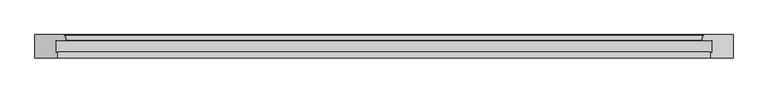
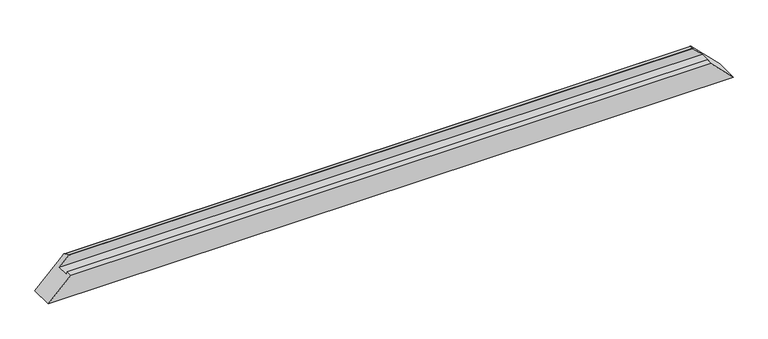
"""IFC4 building model written with IfcOpenShell, lengths in millimetres: proxy geometry, Weiku - Montante - Caixilho 02.2.01.005 : Weiku - Montante - Caixilho 02.2.01.005."""

import ifcopenshell
import ifcopenshell.guid

model = None  # the IFC model being written
_history = None  # IfcOwnerHistory: only IFC2X3 demands one
_inside = {}  # id of a spatial element -> (the spatial element, [elements in it])
_under = {}  # id of a project, library or spatial element -> (it, [spatial elements below it])
_declared = {}  # id of a project -> (the project, [libraries it declares])
_typed = {}  # id of a type object -> (the type object, [elements of that type])
_made_of = {}  # id of a material, layer set ... -> (it, [elements and type objects made of it])


def new_model(schema):
    """Start an empty IFC model of exactly this schema.

    Asked for "IFC4X3", IfcOpenShell would pick the latest addendum, in which some entities
    have other attributes; the version numbers below select the first issue.
    IFC2X3 requires an IfcOwnerHistory on every rooted entity: one is made here for all.
    """
    global model, _history
    if schema == "IFC4X3":
        model = ifcopenshell.file(schema_version=(4, 3, 0, 0))
    else:
        model = ifcopenshell.file(schema=schema)
    _inside.clear()
    _under.clear()
    _declared.clear()
    _typed.clear()
    _made_of.clear()
    _history = None
    if model.schema == "IFC2X3":
        org = make("IfcOrganization", Name="unknown")
        user = make(
            "IfcPersonAndOrganization",
            ThePerson=make("IfcPerson", FamilyName="unknown"),
            TheOrganization=org,
        )
        app = make(
            "IfcApplication",
            ApplicationDeveloper=org,
            Version="unknown",
            ApplicationFullName="unknown",
            ApplicationIdentifier="unknown",
        )
        _history = make(
            "IfcOwnerHistory",
            OwningUser=user,
            OwningApplication=app,
            ChangeAction="ADDED",
            CreationDate=0,
        )
    return model


def make(cls, **values):
    """One entity of the class cls with the attributes given. An attribute that is None is left unset."""
    return model.create_entity(
        cls, **{name: value for name, value in values.items() if value is not None}
    )


def rooted(cls, **values):
    """An entity with a GlobalId (a new one), such as an element, a storey or a relation."""
    return make(cls, GlobalId=ifcopenshell.guid.new(), OwnerHistory=_history, **values)


def si_unit(unit_type, name, prefix=None):
    """IfcSIUnit, for example si_unit("LENGTHUNIT", "METRE", prefix="MILLI")."""
    return make("IfcSIUnit", UnitType=unit_type, Prefix=prefix, Name=name)


def assignment(units):
    """IfcUnitAssignment: the units of a project."""
    return None if units is None else make("IfcUnitAssignment", Units=units)


def point(xyz):
    """IfcCartesianPoint."""
    return None if xyz is None else make("IfcCartesianPoint", Coordinates=xyz)


def direction(xyz):
    """IfcDirection."""
    return None if xyz is None else make("IfcDirection", DirectionRatios=xyz)


def frame(location, z_axis=None, x_axis=None):
    """IfcAxis2Placement3D, a coordinate frame: its origin and axes. An axis left out is left unset."""
    return make(
        "IfcAxis2Placement3D",
        Location=point(location),
        Axis=direction(z_axis),
        RefDirection=direction(x_axis),
    )


def origin():
    """The frame at (0, 0, 0) with its axes left unset."""
    return frame((0.0, 0.0, 0.0))


def place(relative_to, where):
    """IfcLocalPlacement: puts the frame where relative to a parent placement (None: the world)."""
    return make(
        "IfcLocalPlacement", PlacementRelTo=relative_to, RelativePlacement=where
    )


def context(
    kind, dimensions, precision=None, world=None, true_north=None, identifier=None
):
    """IfcGeometricRepresentationContext, for example the 3D "Model" context."""
    return make(
        "IfcGeometricRepresentationContext",
        ContextIdentifier=identifier,
        ContextType=kind,
        CoordinateSpaceDimension=dimensions,
        Precision=precision,
        WorldCoordinateSystem=world,
        TrueNorth=true_north,
    )


def project(units=None, contexts=None):
    """IfcProject with its units and contexts."""
    return rooted(
        "IfcProject",
        Name="project",
        RepresentationContexts=contexts,
        UnitsInContext=assignment(units),
    )


def spatial(cls, under=None, at=None, **own):
    """A site, building, storey or space (cls), placed at a placement, below another one or the project."""
    s = rooted(cls, ObjectPlacement=at, **own)
    if under is not None:
        _under.setdefault(under.id(), (under, []))[1].append(s)
    return s


def ellipse_curve(where, semi_axis1, semi_axis2):
    """IfcEllipse in the frame where."""
    return make(
        "IfcEllipse", Position=where, SemiAxis1=semi_axis1, SemiAxis2=semi_axis2
    )


def shape(context_of_items, identifier, shape_type, items):
    """IfcShapeRepresentation: the items that make up one representation, for example the "Body"."""
    return make(
        "IfcShapeRepresentation",
        ContextOfItems=context_of_items,
        RepresentationIdentifier=identifier,
        RepresentationType=shape_type,
        Items=items,
    )


def source(mapping_origin, context_of_items, identifier, shape_type, items):
    """IfcRepresentationMap: a shape defined once, which mapped items show again and again."""
    return make(
        "IfcRepresentationMap",
        MappingOrigin=mapping_origin,
        MappedRepresentation=shape(context_of_items, identifier, shape_type, items),
    )


def transform(
    local_origin,
    x_axis=None,
    y_axis=None,
    z_axis=None,
    scale=None,
    scale2=None,
    scale3=None,
    uniform=True,
):
    """IfcCartesianTransformationOperator3D, or its non-uniform kind. x_axis, y_axis, z_axis: its Axis1, 2, 3."""
    if uniform:
        return make(
            "IfcCartesianTransformationOperator3D",
            Axis1=direction(x_axis),
            Axis2=direction(y_axis),
            LocalOrigin=point(local_origin),
            Scale=scale,
            Axis3=direction(z_axis),
        )
    return make(
        "IfcCartesianTransformationOperator3DnonUniform",
        Axis1=direction(x_axis),
        Axis2=direction(y_axis),
        LocalOrigin=point(local_origin),
        Scale=scale,
        Axis3=direction(z_axis),
        Scale2=scale2,
        Scale3=scale3,
    )


def mapped(mapping_source, mapping_target):
    """IfcMappedItem: shows the shape of a source again, moved by a transform."""
    return make(
        "IfcMappedItem", MappingSource=mapping_source, MappingTarget=mapping_target
    )


def made_of(thing, what):
    """Note that an element or type object is made of a material, layer set ...; save() writes the relation."""
    if what is not None:
        _made_of.setdefault(what.id(), (what, []))[1].append(thing)
    return thing


def element(
    cls,
    number,
    at=None,
    inside=None,
    cuts=None,
    type_object=None,
    material=None,
    context=None,
    identifier="Body",
    shape_type=None,
    held_by="IfcProductDefinitionShape",
    body=None,
    shapes=None,
    **own,
):
    """One element of the class cls, such as IfcWall. Its Tag is "e" and its number.

    at: its placement. inside: the storey or other place that contains it. cuts: it is an
    opening in that element (IfcRelVoidsElement). A single representation is given by context,
    identifier, shape_type and body (its items); several are given by shapes. held_by: the class
    of the entity that holds the representations. save() writes the other relations.
    """
    e = rooted(cls, Tag="e%d" % number, ObjectPlacement=at, **own)
    if body is not None:
        shapes = [shape(context, identifier, shape_type, body)]
    if shapes is not None:
        e.Representation = make(held_by, Representations=shapes)
    if inside is not None:
        _inside.setdefault(inside.id(), (inside, []))[1].append(e)
    if cuts is not None:
        rooted(
            "IfcRelVoidsElement", RelatingBuildingElement=cuts, RelatedOpeningElement=e
        )
    if type_object is not None:
        _typed.setdefault(type_object.id(), (type_object, []))[1].append(e)
    return made_of(e, material)


def aggregate(whole, parts):
    """IfcRelAggregates: a whole, such as a stair, and the parts it consists of."""
    return rooted("IfcRelAggregates", RelatingObject=whole, RelatedObjects=parts)


def save(model, path):
    """Write the relations noted so far, then the file.

    IfcRelAggregates (storeys below a building ...), IfcRelContainedInSpatialStructure (elements
    in a storey), IfcRelDefinesByType, IfcRelAssociatesMaterial and IfcRelDeclares: one each for
    every whole, place, type object, material and project.
    """
    for whole, parts in _under.values():
        aggregate(whole, parts)
    for where, things in _inside.values():
        rooted(
            "IfcRelContainedInSpatialStructure",
            RelatedElements=things,
            RelatingStructure=where,
        )
    for kind, things in _typed.values():
        rooted("IfcRelDefinesByType", RelatedObjects=things, RelatingType=kind)
    for what, things in _made_of.values():
        rooted("IfcRelAssociatesMaterial", RelatedObjects=things, RelatingMaterial=what)
    for by, libraries in _declared.values():
        rooted("IfcRelDeclares", RelatingContext=by, RelatedDefinitions=libraries)
    model.write(path)


def plane_surface(at):
    """IfcPlane: the flat surface through the origin of the frame at, square to its z axis."""
    return make("IfcPlane", Position=at)


def cylinder_surface(at, radius):
    """IfcCylindricalSurface: all points at the distance radius from the z axis of the frame at."""
    return make("IfcCylindricalSurface", Position=at, Radius=radius)


def advanced_brep(points, edges, surfaces, faces):
    """IfcAdvancedBrep: a solid bounded by faces that lie on surfaces and meet in shared edges.

    An edge is (start, end): straight between two places in points (the first is 0);
    or (start, end, curve); or (start, end, curve, False) where it runs against its curve.
    A face is (place in surfaces, loops), or (place, loops, False) where it looks against
    its surface's normal. A loop lists edges by number (the first is 1), with a minus sign
    where the edge is run from its end to its start. The first loop is the outer one.
    """
    corners = [point(p) for p in points]
    vertices = [make("IfcVertexPoint", VertexGeometry=c) for c in corners]
    made = []
    for start, end, *more in edges:
        made.append(
            make(
                "IfcEdgeCurve",
                EdgeStart=vertices[start],
                EdgeEnd=vertices[end],
                EdgeGeometry=more[0] if more else make("IfcPolyline", Points=[corners[start], corners[end]]),
                SameSense=more[1] if len(more) > 1 else True,
            )
        )
    hull = []
    for where, loops, *sense in faces:
        bounds = []
        for j, loop in enumerate(loops):
            ring = [make("IfcOrientedEdge", EdgeElement=made[abs(k) - 1], Orientation=k > 0) for k in loop]
            bounds.append(
                make(
                    "IfcFaceOuterBound" if j == 0 else "IfcFaceBound",
                    Bound=make("IfcEdgeLoop", EdgeList=ring),
                    Orientation=True,
                )
            )
        hull.append(make("IfcAdvancedFace", Bounds=bounds, FaceSurface=surfaces[where], SameSense=sense[0] if sense else True))
    return make("IfcAdvancedBrep", Outer=make("IfcClosedShell", CfsFaces=hull))


def generic_models_7d1af707(model_context):
    return source(origin(), model_context, "Body", "AdvancedBrep", [
        advanced_brep(
        [(-701.0, -12.5, 46.0), (701.0, -12.5, 46.0), (680.8909676, -12.5, 66.1090324), (-680.8909676, -12.5, 66.1090324), (-701.0, -37.8314286, 46.0), (701.0, -37.8314286, 46.0), (-698.0, -37.027581, 49.0), (698.0, -37.027581, 49.0), (-698.0, -50.0, 49.0), (698.0, -50.0, 49.0), (747.0, -50.0, 0.0), (-747.0, -50.0, 0.0), (-747.0, 0.0, 0.0), (747.0, 0.0, 0.0), (-685.4997332, 0.0, 61.5002668), (685.4997332, 0.0, 61.5002668), (-680.118227, -11.4929448, 66.881773), (680.118227, -11.4929448, 66.881773), (682.6019557, -2.2235429, 64.3980443), (-682.6019557, -2.2235429, 64.3980443)],
        [
            (0, 1),
            (1, 2),
            (2, 3),
            (3, 0),
            (4, 5),
            (5, 1),
            (0, 4),
            (6, 7),
            (7, 5),
            (4, 6),
            (8, 9),
            (9, 7),
            (6, 8),
            (10, 9),
            (8, 11),
            (11, 10),
            (11, 12),
            (12, 13),
            (13, 10),
            (12, 14),
            (14, 15),
            (15, 13),
            (16, 17),
            (17, 18),
            (18, 19),
            (19, 16),
            (3, 16, ellipse_curve(frame((-680.8909676, -11.7, 66.1090324), z_axis=(-0.7071067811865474, 0.0, 0.7071067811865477), x_axis=(-0.7071067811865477, 0.0, -0.7071067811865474)), 1.1313708, 0.8)),
            (19, 14, ellipse_curve(frame((-685.4997332, -3.0, 61.5002668), z_axis=(-0.7071067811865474, 0.0, 0.7071067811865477), x_axis=(-0.7071067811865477, 0.0, -0.7071067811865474)), 4.2426407, 3.0)),
            (15, 18, ellipse_curve(frame((685.4997332, -3.0, 61.5002668), z_axis=(0.7071067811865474, 0.0, 0.7071067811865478), x_axis=(-0.7071067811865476, 0.0, 0.7071067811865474)), 4.2426407, 3.0)),
            (17, 2, ellipse_curve(frame((680.8909676, -11.7, 66.1090324), z_axis=(0.7071067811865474, 0.0, 0.7071067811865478), x_axis=(-0.7071067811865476, 0.0, 0.7071067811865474)), 1.1313708, 0.8)),
        ],
        [
            plane_surface(frame((-747.0, -12.5, 66.1090324), z_axis=(0.0, -1.0, 0.0), x_axis=(1.0, 0.0, 0.0))),
            plane_surface(frame((-747.0, -12.5, 46.0), z_axis=(0.0, 0.0, 1.0), x_axis=(1.0, 0.0, 0.0))),
            plane_surface(frame((-747.0, -37.8314286, 46.0), z_axis=(0.0, 0.9659258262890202, -0.2588190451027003), x_axis=(1.0, 0.0, 0.0))),
            plane_surface(frame((-747.0, -37.027581, 49.0), z_axis=(0.0, 0.0, 1.0), x_axis=(1.0, 0.0, 0.0))),
            plane_surface(frame((-747.0, -50.0, 49.0), z_axis=(0.0, -1.0, 0.0), x_axis=(1.0, 0.0, 0.0))),
            plane_surface(frame((-747.0, -50.0, 0.0), z_axis=(0.0, 0.0, -1.0), x_axis=(1.0, 0.0, 0.0))),
            plane_surface(frame((-747.0, 0.0, 0.0), z_axis=(0.0, 1.0, 0.0), x_axis=(1.0, 0.0, 0.0))),
            plane_surface(frame((-747.0, -2.2235429, 64.3980443), z_axis=(0.0, 0.2588190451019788, 0.9659258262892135), x_axis=(1.0, 0.0, 0.0))),
            plane_surface(frame((-817.0, 15.0, -70.0), z_axis=(-0.7071067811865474, 0.0, 0.7071067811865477), x_axis=(0.0, -1.0, 0.0))),
            plane_surface(frame((677.0, 15.0, 70.0), z_axis=(0.7071067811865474, 0.0, 0.7071067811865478), x_axis=(0.0, -1.0, 0.0))),
            cylinder_surface(frame((-747.0, -11.7, 66.1090324), z_axis=(-1.0, 0.0, 0.0), x_axis=(0.0, -1.0, 0.0)), 0.8),
            cylinder_surface(frame((-747.0, -3.0, 61.5002668), z_axis=(-1.0, 0.0, 0.0), x_axis=(0.0, -1.0, 0.0)), 3.0),
        ],
        [
            (0, [[1, 2, 3, 4]]),
            (1, [[5, 6, -1, 7]]),
            (2, [[8, 9, -5, 10]]),
            (3, [[11, 12, -8, 13]]),
            (4, [[14, -11, 15, 16]]),
            (5, [[17, 18, 19, -16]]),
            (6, [[20, 21, 22, -18]]),
            (7, [[23, 24, 25, 26]]),
            (8, [[27, -26, 28, -20, -17, -15, -13, -10, -7, -4]]),
            (9, [[-6, -9, -12, -14, -19, -22, 29, -24, 30, -2]]),
            (10, [[-3, -30, -23, -27]]),
            (11, [[-25, -29, -21, -28]]),
        ],
    ),
    ])


if __name__ == "__main__":
    model = new_model("IFC4")
    model_context = context("Model", 3, world=origin())
    ifc_project = project(units=[si_unit("LENGTHUNIT", "METRE", prefix="MILLI")], contexts=[model_context])
    site = spatial("IfcSite", under=ifc_project)
    building = spatial("IfcBuilding", under=site)
    placement = place(None, origin())
    generic_models_shape = generic_models_7d1af707(model_context)
    element("IfcBuildingElementProxy", 1, Name="Weiku - Montante - Caixilho 02.2.01.005 : Weiku - Montante - Caixilho 02.2.01.005", ObjectType="Weiku - Montante - Caixilho 02.2.01.005 : Weiku - Montante - Caixilho 02.2.01.005", at=placement, inside=building, context=model_context, shape_type="MappedRepresentation", body=[
        mapped(generic_models_shape, transform((0.0, 0.0, 0.0), x_axis=(1.0, 0.0, 0.0), y_axis=(0.0, 1.0, 0.0), z_axis=(0.0, 0.0, 1.0))),
    ])
    save(model, "model.ifc")
